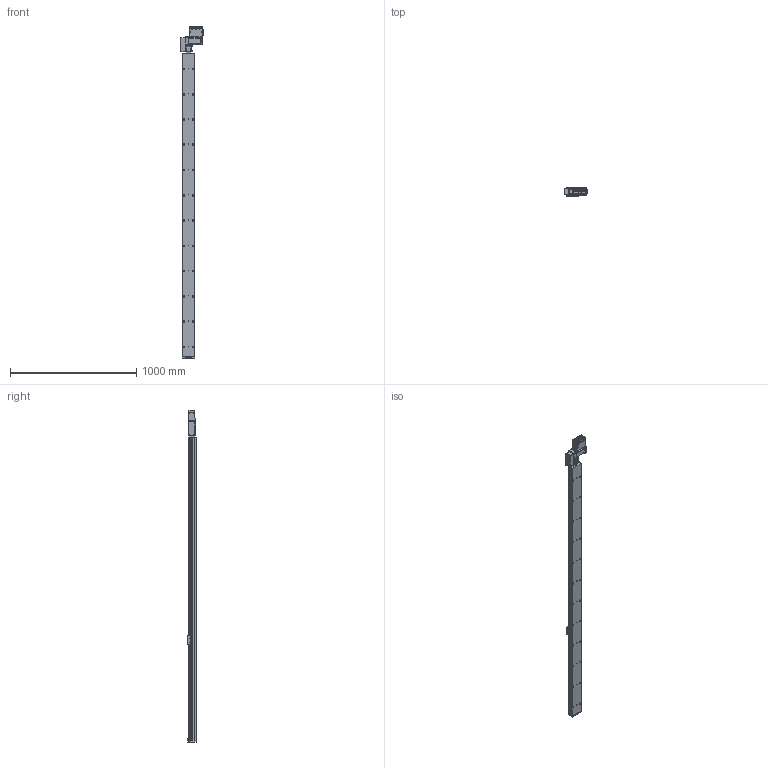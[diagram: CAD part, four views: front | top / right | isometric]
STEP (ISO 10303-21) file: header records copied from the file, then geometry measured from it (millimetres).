
FILE_DESCRIPTION (( 'STEP AP203' ), '1' );
FILE_NAME ('S10 TBN LH S2400.STEP', '2012-12-07T12:28:24', ( 'Conseil Régional Haute-Normandie' ), ( 'Conseil Régional Haute-Normandie' ), 'SwSTEP 2.0', 'SolidWorks 2010', '' );
FILE_SCHEMA (( 'CONFIG_CONTROL_DESIGN' ));
Length unit declared in the file: millimetre
Products named in the file (30): cache t皻e_Default; Plaque racord_Default; renvoi LH_Default; BU41 Carte Alimentation P05_3; T_X2_00F4_X0_le contre le moteur_5; Colonnette_3; Connecteur rond D10 3cts_5; Connecteur rond D12 4cts_5; T_X2_00F4_X0_le lat_X2_00E9_X0_rale_5; Vis TF 3 torkx_1_1; axe 2400.SLDPRT_Default; S10 TBN LH S2400; cache t皻e axe_Default; Cvis M5 L30_Default; embout; palette tbn; plaque de bout s10_Default; vis M5 L12_Default; Vis M5 L16-2_Default_1; vis M5 L5_Default; Assem1_7; BU45 Carte d''axe A11_5; Moteur 60BLDC90A_3; Couvercle_3; T_X2_00F4_X0_le fond_3; Sub D 9cts 90_X2_00B_X0__3; Radiateur profil_X2_00E9_X0_ 100x25_3; Colonnette ronde_3; T_X2_00F4_X0_le Arri_X2_00E8_X0_re_5; axe 2400
Assembly tree (63 placements, depth 3):
  S10 TBN LH S2400
    vis M5 L12_Default  x4
    cache t皻e axe_Default
    cache t皻e_Default  x2
    vis M5 L5_Default  x4
    Plaque racord_Default
    renvoi LH_Default
    Vis M5 L16-2_Default_1  x4
    palette tbn
    Cvis M5 L30_Default  x2
    axe 2400.SLDPRT_Default
      axe 2400
    embout
    Assem1_7
      T_X2_00F4_X0_le Arri_X2_00E8_X0_re_5
      T_X2_00F4_X0_le lat_X2_00E9_X0_rale_5  x2
      Vis TF 3 torkx_1_1  x21
      Moteur 60BLDC90A_3
      T_X2_00F4_X0_le fond_3
      Connecteur rond D12 4cts_5
      Colonnette ronde_3
      BU45 Carte d''axe A11_5
      Connecteur rond D10 3cts_5  x2
      Colonnette_3  x2
      Sub D 9cts 90_X2_00B_X0__3
      Radiateur profil_X2_00E9_X0_ 100x25_3
      T_X2_00F4_X0_le contre le moteur_5
      Couvercle_3
      BU41 Carte Alimentation P05_3
    plaque de bout s10_Default
Bounding box: 189.8 x 66.75 x 2628.49 mm (x, y, z)
Volume: 13229651.8 mm3; surface area: 1424702.8 mm2
Topology: 61 solids, 61 shells, 2351 faces, 5823 edges, 3762 vertices
Faces by surface type: plane 1108, cylinder 1026, cone 174, bspline 40, torus 3
Entity records: 49421 total; most frequent: CARTESIAN_POINT 8876, DIRECTION 8010, ORIENTED_EDGE 7242, EDGE_CURVE 3621, AXIS2_PLACEMENT_3D 2995, VERTEX_POINT 2366, LINE 2020, VECTOR 2020
